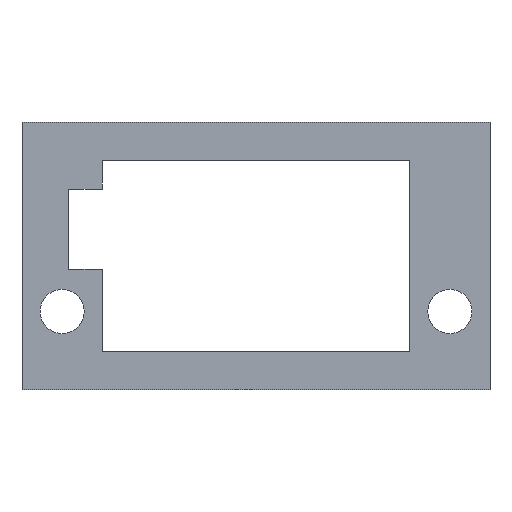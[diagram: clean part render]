
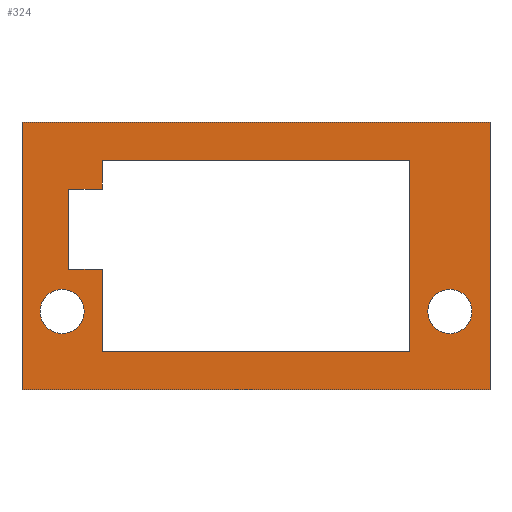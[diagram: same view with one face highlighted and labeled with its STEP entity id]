
A CAD part, front view. The second image highlights one B-rep face of the part: STEP entity #324.
In plain terms, the highlighted planar face has unit normal (0, -1, 0).
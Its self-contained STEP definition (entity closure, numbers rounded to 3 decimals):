
#18=FACE_BOUND('',#62,.T.);
#19=FACE_BOUND('',#63,.T.);
#20=FACE_BOUND('',#64,.T.);
#22=CIRCLE('',#349,1.65);
#24=CIRCLE('',#352,1.65);
#42=FACE_OUTER_BOUND('',#61,.T.);
#61=EDGE_LOOP('',(#281,#282,#283,#284));
#62=EDGE_LOOP('',(#285));
#63=EDGE_LOOP('',(#286));
#64=EDGE_LOOP('',(#287,#288,#289,#290,#291,#292,#293,#294));
#65=LINE('',#443,#103);
#69=LINE('',#451,#107);
#72=LINE('',#457,#110);
#75=LINE('',#463,#113);
#78=LINE('',#469,#116);
#81=LINE('',#475,#119);
#84=LINE('',#481,#122);
#87=LINE('',#486,#125);
#91=LINE('',#503,#129);
#95=LINE('',#511,#133);
#98=LINE('',#517,#136);
#101=LINE('',#522,#139);
#103=VECTOR('',#363,10.);
#107=VECTOR('',#369,10.);
#110=VECTOR('',#374,10.);
#113=VECTOR('',#379,10.);
#116=VECTOR('',#384,10.);
#119=VECTOR('',#389,10.);
#122=VECTOR('',#394,10.);
#125=VECTOR('',#399,10.);
#129=VECTOR('',#417,10.);
#133=VECTOR('',#423,10.);
#136=VECTOR('',#428,10.);
#139=VECTOR('',#433,10.);
#141=VERTEX_POINT('',#441);
#142=VERTEX_POINT('',#442);
#145=VERTEX_POINT('',#450);
#147=VERTEX_POINT('',#456);
#149=VERTEX_POINT('',#462);
#151=VERTEX_POINT('',#468);
#153=VERTEX_POINT('',#474);
#155=VERTEX_POINT('',#480);
#158=VERTEX_POINT('',#491);
#160=VERTEX_POINT('',#497);
#161=VERTEX_POINT('',#501);
#162=VERTEX_POINT('',#502);
#165=VERTEX_POINT('',#510);
#167=VERTEX_POINT('',#516);
#169=EDGE_CURVE('',#141,#142,#65,.T.);
#173=EDGE_CURVE('',#145,#141,#69,.T.);
#176=EDGE_CURVE('',#147,#145,#72,.T.);
#179=EDGE_CURVE('',#149,#147,#75,.T.);
#182=EDGE_CURVE('',#151,#149,#78,.T.);
#185=EDGE_CURVE('',#153,#151,#81,.T.);
#188=EDGE_CURVE('',#155,#153,#84,.T.);
#191=EDGE_CURVE('',#142,#155,#87,.T.);
#195=EDGE_CURVE('',#158,#158,#22,.T.);
#198=EDGE_CURVE('',#160,#160,#24,.T.);
#199=EDGE_CURVE('',#161,#162,#91,.T.);
#203=EDGE_CURVE('',#165,#161,#95,.T.);
#206=EDGE_CURVE('',#167,#165,#98,.T.);
#209=EDGE_CURVE('',#162,#167,#101,.T.);
#281=ORIENTED_EDGE('',*,*,#209,.F.);
#282=ORIENTED_EDGE('',*,*,#199,.F.);
#283=ORIENTED_EDGE('',*,*,#203,.F.);
#284=ORIENTED_EDGE('',*,*,#206,.F.);
#285=ORIENTED_EDGE('',*,*,#198,.F.);
#286=ORIENTED_EDGE('',*,*,#195,.F.);
#287=ORIENTED_EDGE('',*,*,#191,.F.);
#288=ORIENTED_EDGE('',*,*,#169,.F.);
#289=ORIENTED_EDGE('',*,*,#173,.F.);
#290=ORIENTED_EDGE('',*,*,#176,.F.);
#291=ORIENTED_EDGE('',*,*,#179,.F.);
#292=ORIENTED_EDGE('',*,*,#182,.F.);
#293=ORIENTED_EDGE('',*,*,#185,.F.);
#294=ORIENTED_EDGE('',*,*,#188,.F.);
#308=PLANE('',#358);
#324=ADVANCED_FACE('',(#42,#18,#19,#20),#308,.F.);
#349=AXIS2_PLACEMENT_3D('',#493,#406,#407);
#352=AXIS2_PLACEMENT_3D('',#499,#413,#414);
#358=AXIS2_PLACEMENT_3D('',#525,#437,#438);
#363=DIRECTION('',(0.,0.,-1.));
#369=DIRECTION('',(-1.,0.,0.));
#374=DIRECTION('',(0.,0.,1.));
#379=DIRECTION('',(1.,0.,0.));
#384=DIRECTION('',(0.,0.,-1.));
#389=DIRECTION('',(1.,0.,0.));
#394=DIRECTION('',(0.,0.,-1.));
#399=DIRECTION('',(-1.,0.,0.));
#406=DIRECTION('center_axis',(0.,-1.,0.));
#407=DIRECTION('ref_axis',(1.,0.,0.));
#413=DIRECTION('center_axis',(0.,-1.,0.));
#414=DIRECTION('ref_axis',(1.,0.,0.));
#417=DIRECTION('',(1.,0.,0.));
#423=DIRECTION('',(0.,0.,1.));
#428=DIRECTION('',(-1.,0.,0.));
#433=DIRECTION('',(0.,0.,-1.));
#437=DIRECTION('center_axis',(0.,1.,0.));
#438=DIRECTION('ref_axis',(1.,0.,0.));
#441=CARTESIAN_POINT('',(-11.5,0.,7.15));
#442=CARTESIAN_POINT('',(-11.5,0.,5.));
#443=CARTESIAN_POINT('',(-11.5,0.,-7.15));
#450=CARTESIAN_POINT('',(11.5,0.,7.15));
#451=CARTESIAN_POINT('',(-11.5,0.,7.15));
#456=CARTESIAN_POINT('',(11.5,0.,-7.15));
#457=CARTESIAN_POINT('',(11.5,0.,7.15));
#462=CARTESIAN_POINT('',(-11.5,0.,-7.15));
#463=CARTESIAN_POINT('',(11.5,0.,-7.15));
#468=CARTESIAN_POINT('',(-11.5,0.,-0.993));
#469=CARTESIAN_POINT('',(-11.5,0.,-7.15));
#474=CARTESIAN_POINT('',(-14.,0.,-0.993));
#475=CARTESIAN_POINT('',(-11.5,0.,-0.993));
#480=CARTESIAN_POINT('',(-14.,0.,5.));
#481=CARTESIAN_POINT('',(-14.,0.,-0.993));
#486=CARTESIAN_POINT('',(-14.,0.,5.));
#491=CARTESIAN_POINT('',(-16.15,0.,-4.15));
#493=CARTESIAN_POINT('Origin',(-14.5,0.,-4.15));
#497=CARTESIAN_POINT('',(12.85,0.,-4.15));
#499=CARTESIAN_POINT('Origin',(14.5,0.,-4.15));
#501=CARTESIAN_POINT('',(-17.5,0.,10.));
#502=CARTESIAN_POINT('',(17.5,0.,10.));
#503=CARTESIAN_POINT('',(-17.5,0.,10.));
#510=CARTESIAN_POINT('',(-17.5,0.,-10.));
#511=CARTESIAN_POINT('',(-17.5,0.,-10.));
#516=CARTESIAN_POINT('',(17.5,0.,-10.));
#517=CARTESIAN_POINT('',(17.5,0.,-10.));
#522=CARTESIAN_POINT('',(17.5,0.,10.));
#525=CARTESIAN_POINT('Origin',(0.,0.,0.));
